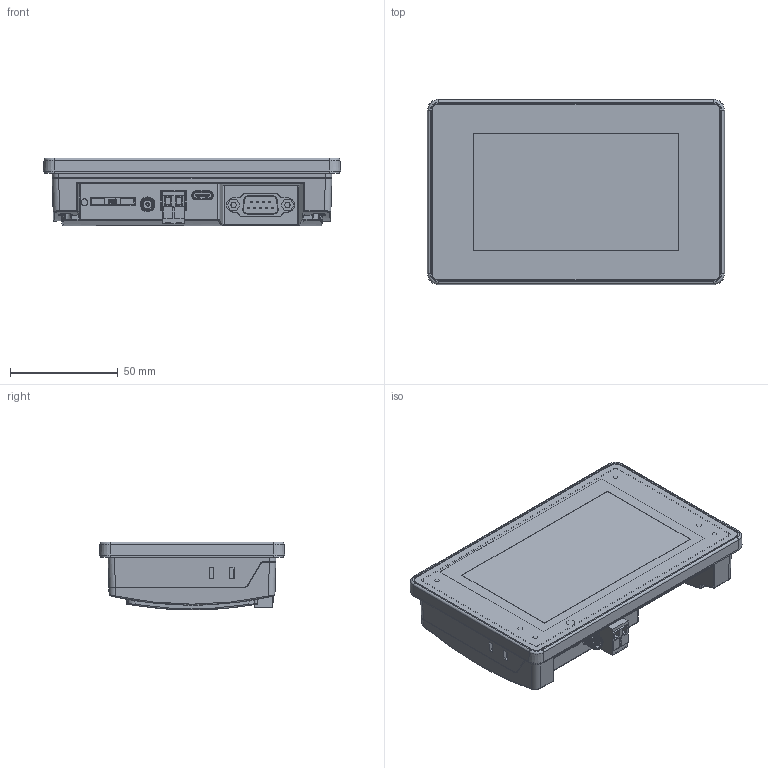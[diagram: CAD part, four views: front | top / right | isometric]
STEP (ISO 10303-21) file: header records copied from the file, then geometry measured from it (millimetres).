
FILE_DESCRIPTION((''),'2;1');
FILE_NAME('FE6043-ASM_ASM_3_ASM_1_ASM','2020-06-23T13:55:24',('weixf'),(''),'CREO PARAMETRIC BY PTC INC, 2016510','CREO PARAMETRIC BY PTC INC, 2016510','');
FILE_SCHEMA(('CONFIG_CONTROL_DESIGN'));
Products named in the file (25): TLPHC-200-2R_6_15_7_2_3_1; D-SUB-M_2_6_15_7_2_3_1; USB_31_C_7_2_8_15_7_2_3_1; PRODUCTROOTMODEL_NULL_DES-43145; PRODUCTROOTMODEL_NULL_DES-43146; PRODUCTROOTMODEL_NULL_DES-43147; PRODUCTROOTMODEL_NULL_DES-43148; PRODUCTROOTMODEL_NULL_DES-43149; PRODUCTROOTMODEL_NULL_DES-43150; PRODUCTROOTMODEL_NULL_DES-43151; PRODUCTROOTMODEL_NULL_DES-43152; PRODUCTROOTMODEL_NULL_DES-43153; PRODUCTROOTMODEL_NULL_DES-43154; PRODUCTROOTMODEL_NULL_DES-43155; PRODUCTROOTMODEL_NULL_DES-43156; PRODUCTROOTMODEL_NULL_DES-43157; PRODUCTROOTMODEL_NULL_DES-43158; PRODUCTROOTMODEL_NULL_DES-43159; PRODUCTROOTMODEL_NULL_DES-43160; PRODUCTROOTMODEL_NULL_DES-43161; SIM_SHELID_ASM_15_ASM_7_ASM_2_A_ASM; SMA-KE0_15_7_2_3_1; FE6043-PCBA_ASM_2_ASM_3_ASM_1_ASM; PRT0001_1; FE6043-ASM_ASM_3_ASM_1_ASM
Assembly tree (24 placements, depth 4):
  FE6043-ASM_ASM_3_ASM_1_ASM
    FE6043-PCBA_ASM_2_ASM_3_ASM_1_ASM
      TLPHC-200-2R_6_15_7_2_3_1
      D-SUB-M_2_6_15_7_2_3_1
      USB_31_C_7_2_8_15_7_2_3_1
      SIM_SHELID_ASM_15_ASM_7_ASM_2_A_ASM
        PRODUCTROOTMODEL_NULL_DES-43145
        PRODUCTROOTMODEL_NULL_DES-43146
        PRODUCTROOTMODEL_NULL_DES-43147
        PRODUCTROOTMODEL_NULL_DES-43148
        PRODUCTROOTMODEL_NULL_DES-43149
        PRODUCTROOTMODEL_NULL_DES-43150
        PRODUCTROOTMODEL_NULL_DES-43151
        PRODUCTROOTMODEL_NULL_DES-43152
        PRODUCTROOTMODEL_NULL_DES-43153
        PRODUCTROOTMODEL_NULL_DES-43154
        PRODUCTROOTMODEL_NULL_DES-43155
        PRODUCTROOTMODEL_NULL_DES-43156
        PRODUCTROOTMODEL_NULL_DES-43157
        PRODUCTROOTMODEL_NULL_DES-43158
        PRODUCTROOTMODEL_NULL_DES-43159
        PRODUCTROOTMODEL_NULL_DES-43160
        PRODUCTROOTMODEL_NULL_DES-43161
      SMA-KE0_15_7_2_3_1
    PRT0001_1
Bounding box: 138 x 86 x 31.5 mm (x, y, z)
Volume: 196534.1 mm3; surface area: 107073.9 mm2
Topology: 22 solids, 28 shells, 4054 faces, 10686 edges, 6782 vertices
Faces by surface type: plane 2612, cylinder 904, bspline 260, cone 163, revolution 40, torus 32, extrusion 31, sphere 12
Entity records: 143595 total; most frequent: CARTESIAN_POINT 44468, ORIENTED_EDGE 21346, DIRECTION 19229, EDGE_CURVE 10673, VECTOR 7517, LINE 7486, VERTEX_POINT 6782, AXIS2_PLACEMENT_3D 5836
